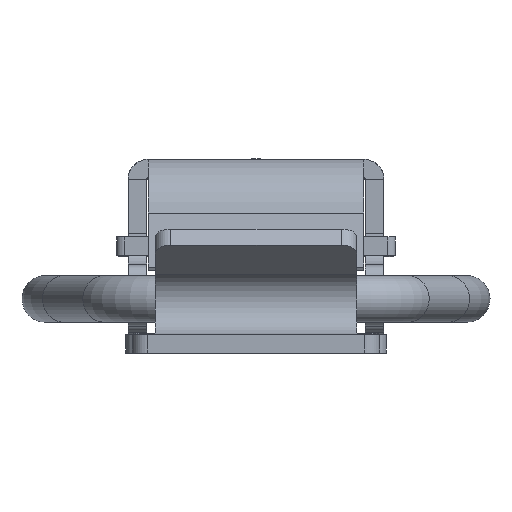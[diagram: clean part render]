
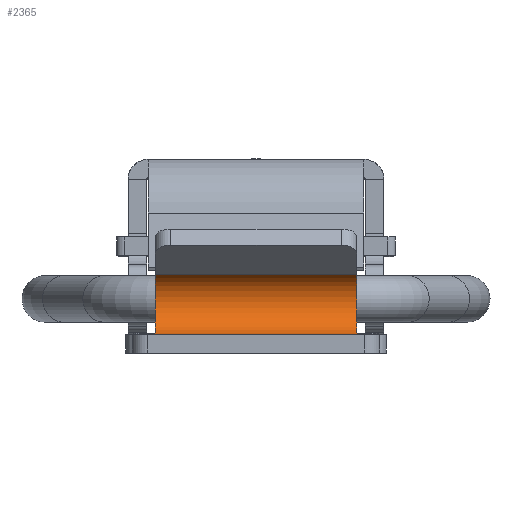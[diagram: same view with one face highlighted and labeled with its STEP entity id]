
A CAD part, left-side view. The second image highlights one B-rep face of the part: STEP entity #2365.
In plain terms, the highlighted cylindrical face has radius 2.078 mm (diameter 4.157 mm), a partial arc.
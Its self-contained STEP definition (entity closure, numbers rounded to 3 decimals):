
#141=CYLINDRICAL_SURFACE('',#2581,2.078);
#247=FACE_OUTER_BOUND('',#393,.T.);
#393=EDGE_LOOP('',(#1993,#1994,#1995,#1996));
#583=LINE('',#3881,#787);
#599=LINE('',#3925,#803);
#787=VECTOR('',#3082,13.);
#803=VECTOR('',#3130,13.);
#932=CIRCLE('',#2564,2.078);
#937=CIRCLE('',#2578,2.078);
#1114=VERTEX_POINT('',#3878);
#1115=VERTEX_POINT('',#3880);
#1122=VERTEX_POINT('',#3900);
#1127=VERTEX_POINT('',#3923);
#1407=EDGE_CURVE('',#1115,#1114,#583,.T.);
#1419=EDGE_CURVE('',#1122,#1114,#932,.T.);
#1430=EDGE_CURVE('',#1127,#1122,#599,.T.);
#1434=EDGE_CURVE('',#1115,#1127,#937,.T.);
#1993=ORIENTED_EDGE('',*,*,#1434,.F.);
#1994=ORIENTED_EDGE('',*,*,#1407,.T.);
#1995=ORIENTED_EDGE('',*,*,#1419,.F.);
#1996=ORIENTED_EDGE('',*,*,#1430,.F.);
#2365=ADVANCED_FACE('',(#247),#141,.F.);
#2564=AXIS2_PLACEMENT_3D('',#3902,#3101,#3102);
#2578=AXIS2_PLACEMENT_3D('',#3933,#3139,#3140);
#2581=AXIS2_PLACEMENT_3D('',#3939,#3147,#3148);
#3082=DIRECTION('',(0.,0.,1.));
#3101=DIRECTION('center_axis',(0.,0.,
-1.));
#3102=DIRECTION('ref_axis',(0.,1.,0.));
#3130=DIRECTION('',(0.,0.,1.));
#3139=DIRECTION('center_axis',(0.,0.,1.));
#3140=DIRECTION('ref_axis',(0.,1.,0.));
#3147=DIRECTION('center_axis',(0.,0.,1.));
#3148=DIRECTION('ref_axis',(0.,1.,0.));
#3878=CARTESIAN_POINT('',(12.722,1.2,6.5));
#3880=CARTESIAN_POINT('',(12.722,1.2,-6.5));
#3881=CARTESIAN_POINT('',(12.722,1.2,0.));
#3900=CARTESIAN_POINT('',(13.761,5.078,6.5));
#3902=CARTESIAN_POINT('Origin',(12.722,3.278,6.5));
#3923=CARTESIAN_POINT('',(13.761,5.078,-6.5));
#3925=CARTESIAN_POINT('',(13.761,5.078,0.));
#3933=CARTESIAN_POINT('Origin',(12.722,3.278,-6.5));
#3939=CARTESIAN_POINT('Origin',(12.722,3.278,0.));
